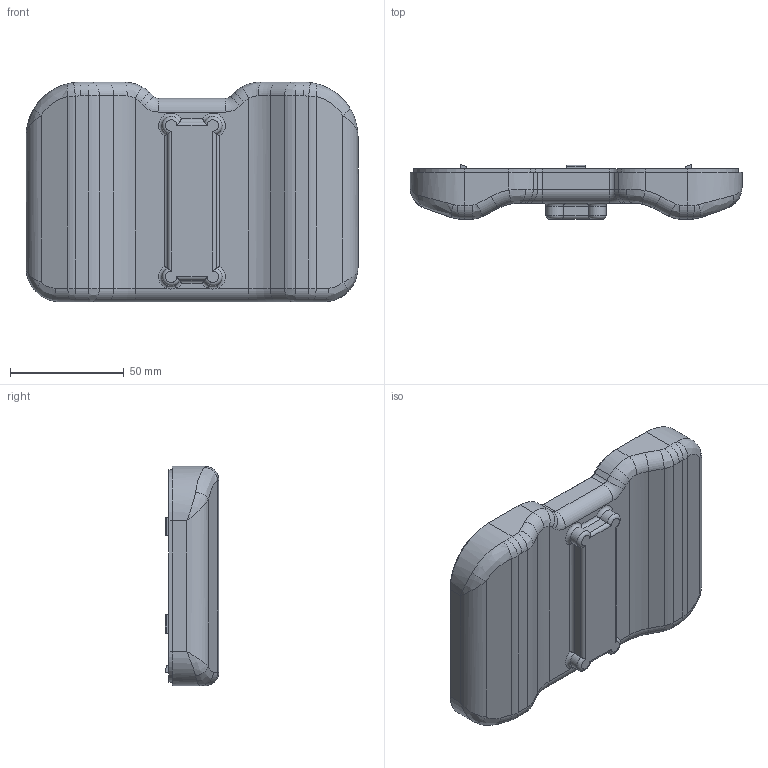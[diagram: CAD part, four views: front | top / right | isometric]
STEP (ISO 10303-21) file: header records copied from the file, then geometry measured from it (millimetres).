
FILE_DESCRIPTION((''),'2;1');
FILE_NAME('REMOTE-CASE','2026-04-19T',('Administrator'),(''),'PRO/ENGINEER BY PARAMETRIC TECHNOLOGY CORPORATION, 2013150','PRO/ENGINEER BY PARAMETRIC TECHNOLOGY CORPORATION, 2013150','');
FILE_SCHEMA(('CONFIG_CONTROL_DESIGN'));
Length unit declared in the file: millimetre
Products named in the file (1): REMOTE-CASE
Bounding box: 146 x 23.73 x 96.56 mm (x, y, z)
Volume: 63425.4 mm3; surface area: 48918.6 mm2
Topology: 1 solids, 1 shells, 355 faces, 896 edges, 550 vertices
Faces by surface type: plane 166, cylinder 109, bspline 44, torus 36
Entity records: 12031 total; most frequent: CARTESIAN_POINT 3696, ORIENTED_EDGE 1776, DIRECTION 1678, EDGE_CURVE 888, AXIS2_PLACEMENT_3D 575, VERTEX_POINT 550, VECTOR 528, LINE 528
